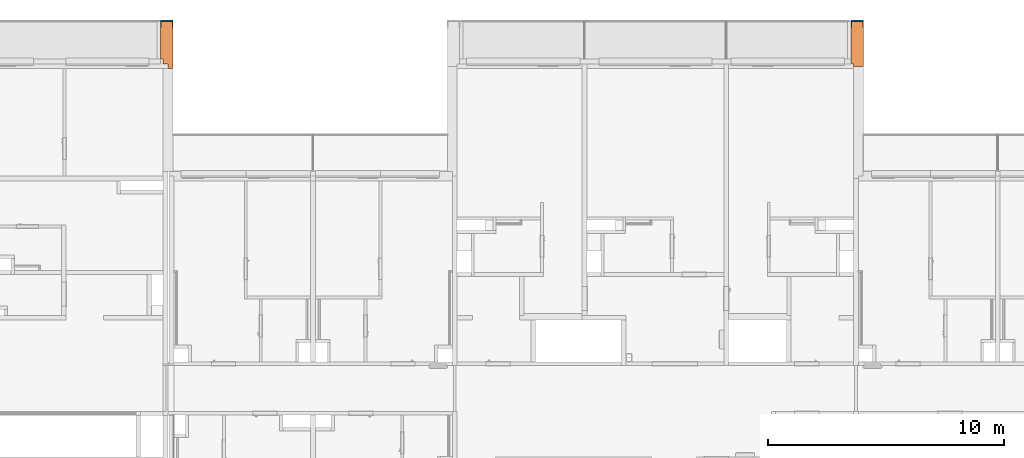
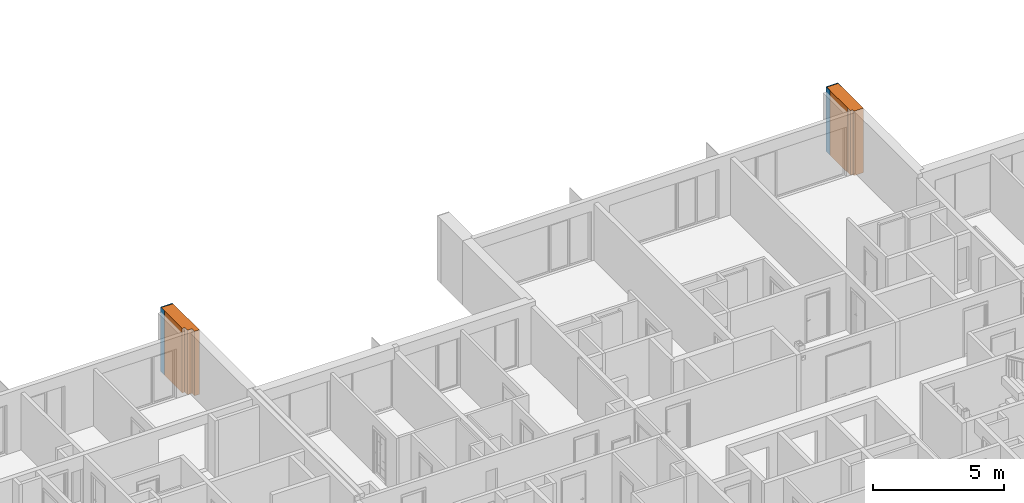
# One storey, part 50 of 66: 2 proxies, 2 walls, 2 openings.
"""IFC2X3 building model written with IfcOpenShell, lengths in millimetres."""

from ifc_helpers import new_model, entity, si_unit, converted_unit, derived_unit, money_unit, direction, frame, origin_with_axes, origin_2d_with_axis, place, context, subcontext, project, spatial, rectangle, extrude, faceted_brep, source, transform, mapped, material, material_list, type_object, element, fill, save


model = new_model("IFC2X3")

# Units and contexts
model_context = context("Model", 3, precision=0.01, world=origin_with_axes(), true_north=direction((0.34421633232, 0.938890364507)))
body_context = subcontext(model_context, "Body", "Model", "MODEL_VIEW")
ifc_project = project(units=[si_unit("LENGTHUNIT", "METRE", prefix="MILLI"), si_unit("AREAUNIT", "SQUARE_METRE"), si_unit("VOLUMEUNIT", "CUBIC_METRE"), converted_unit("PLANEANGLEUNIT", "DEGREE", entity("IfcPlaneAngleMeasure", 0.0174532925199), si_unit("PLANEANGLEUNIT", "RADIAN"), dimensions=[0, 0, 0, 0, 0, 0, 0]), si_unit("SOLIDANGLEUNIT", "STERADIAN"), money_unit("USD"), converted_unit("TIMEUNIT", "Year", entity("IfcTimeMeasure", 31556926.0), si_unit("TIMEUNIT", "SECOND"), dimensions=[0, 0, 1, 0, 0, 0, 0]), si_unit("MASSUNIT", "GRAM", prefix="KILO"), si_unit("THERMODYNAMICTEMPERATUREUNIT", "DEGREE_CELSIUS"), si_unit("LUMINOUSINTENSITYUNIT", "LUMEN"), si_unit("ENERGYUNIT", "JOULE", prefix="MEGA"), derived_unit("THERMALCONDUCTANCEUNIT", [(si_unit("POWERUNIT", "WATT"), 1), (si_unit("LENGTHUNIT", "METRE"), -1), (si_unit("THERMODYNAMICTEMPERATUREUNIT", "KELVIN"), -1)]), derived_unit("SPECIFICHEATCAPACITYUNIT", [(si_unit("ENERGYUNIT", "JOULE"), 1), (si_unit("MASSUNIT", "GRAM", prefix="KILO"), -1), (si_unit("THERMODYNAMICTEMPERATUREUNIT", "KELVIN"), -1)]), derived_unit("MASSDENSITYUNIT", [(si_unit("MASSUNIT", "GRAM", prefix="KILO"), 1), (si_unit("VOLUMEUNIT", "CUBIC_METRE"), -1)])], contexts=[model_context])

# Site, building, storey
site_placement = place(None, origin_with_axes())
site = spatial("IfcSite", under=ifc_project, at=site_placement, Name="USTRONIE MORSKIE", CompositionType="ELEMENT")
building_placement = place(site_placement, origin_with_axes())
building = spatial("IfcBuilding", under=site, at=building_placement, Name="Budynek", CompositionType="ELEMENT")
storey_placement = place(building_placement, frame((0.0, 0.0, 10000.0), z_axis=(0.0, 0.0, 1.0), x_axis=(1.0, 0.0, 0.0)))
storey = spatial("IfcBuildingStorey", under=building, at=storey_placement, Name="PIĘTRO 3", CompositionType="ELEMENT", Elevation=10000.0)

# Proxy, opening, wall
ifc_material_1 = material(Name="Tynk zewnętrzny")
ifc_material_2 = material(Name="Wełna ELEW")
ifc_material_3 = material(Name="Beton konstrukcyjny B25")
ifc_material_list = material_list([ifc_material_1, ifc_material_2, ifc_material_3, ifc_material_2, ifc_material_1])
building_element_proxy_type = type_object("IfcBuildingElementProxyType", Name="BALKON bok 01 520", PredefinedType="NOTDEFINED")
proxy_1_placement = place(storey_placement, frame((396317.920919, 749451.199036, -160.0), z_axis=(0.0, 0.0, 1.0), x_axis=(0.0, 1.0, 0.0)))
proxy_1 = element("IfcBuildingElementProxy", 1, at=proxy_1_placement, inside=storey, type_object=building_element_proxy_type, material=ifc_material_list, Name="Œciana-006", context=body_context, shape_type="Brep", body=[
    faceted_brep([(300.0, 210.0, 3000.0), (300.0, 200.0, 3000.0), (1949.99981809, 200.0, 3000.0), (1949.99981809, 210.0, 3000.0), (300.0, 200.0, 0.0), (300.0, 210.0, 0.0), (1949.99981809, 200.0, 0.0), (1949.99981809, 210.0, 0.0)], [[[0, 1, 2, 3]], [[4, 1, 0, 5]], [[1, 4, 6, 2]], [[2, 6, 7, 3]], [[5, 0, 3, 7]], [[4, 5, 7, 6]]]),
    faceted_brep([(100.0, 200.0, 3000.0), (100.0, 100.000005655, 3000.0), (1949.99981809, 100.0, 3000.0), (1949.99981809, 200.0, 3000.0), (100.0, 100.000005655, 0.0), (100.0, 200.0, 0.0), (1949.99981809, 100.0, 0.0), (1949.99981809, 200.0, 0.0)], [[[0, 1, 2, 3]], [[4, 1, 0, 5]], [[1, 4, 6, 2]], [[2, 6, 7, 3]], [[5, 0, 3, 7]], [[4, 5, 7, 6]]]),
    faceted_brep([(0.0, -100.0, 0.0), (0.0, 100.0, 0.0), (1949.99981809, 100.0, 0.0), (1949.99981809, -100.0, 0.0), (0.0, -100.0, 3000.0), (0.0, 100.0, 3000.0), (1949.99981809, 100.0, 3000.0), (1949.99981809, -100.0, 3000.0)], [[[0, 1, 2, 3]], [[4, 5, 1, 0]], [[1, 5, 6, 2]], [[7, 3, 2, 6]], [[4, 0, 3, 7]], [[5, 4, 7, 6]]]),
    faceted_brep([(0.0, -100.0, 0.0), (1949.99981809, -100.0, 0.0), (1949.99981809, -300.0, 0.0), (0.0, -300.0, 0.0), (0.0, -100.0, 3000.0), (1949.99981809, -100.0, 3000.0), (1949.99981809, -300.0, 3000.0), (0.0, -300.0, 3000.0)], [[[0, 1, 2, 3]], [[4, 5, 1, 0]], [[2, 1, 5, 6]], [[3, 2, 6, 7]], [[4, 0, 3, 7]], [[7, 6, 5, 4]]]),
    faceted_brep([(0.0, -300.0, 0.0), (1949.99981809, -300.0, 0.0), (1949.99981809, -310.0, 0.0), (0.0, -310.0, 0.0), (0.0, -300.0, 3000.0), (1949.99981809, -300.0, 3000.0), (1949.99981809, -310.0, 3000.0), (0.0, -310.0, 3000.0)], [[[0, 1, 2, 3]], [[4, 5, 1, 0]], [[2, 1, 5, 6]], [[3, 2, 6, 7]], [[4, 0, 3, 7]], [[7, 6, 5, 4]]]),
])
opening_1_placement = place(proxy_1_placement, frame((1949.99981809, 0.0, 0.0), z_axis=(0.0, 0.0, 1.0), x_axis=(1.0, 0.0, 0.0)))
opening_1 = element("IfcOpeningElement", 2, at=opening_1_placement, cuts=proxy_1, Name="ZS1", context=body_context, shape_type="SweptSolid", body=[
    extrude(rectangle(XDim=9.99999999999, YDim=50.0000000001, at=origin_2d_with_axis()), frame((-25.0000000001, 205.0, 0.0), z_axis=(0.0, 0.0, 1.0), x_axis=(0.0, -1.0, 0.0)), (0.0, 0.0, 1.0), 3000.0),
    extrude(rectangle(XDim=9.99999999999, YDim=250.0, at=origin_2d_with_axis()), frame((-175.0, 205.0, 0.0), z_axis=(0.0, 0.0, 1.0), x_axis=(0.0, -1.0, 0.0)), (0.0, 0.0, 1.0), 3000.0),
    extrude(rectangle(XDim=9.99999999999, YDim=50.0, at=origin_2d_with_axis()), frame((-25.0, -305.0, 0.0), z_axis=(0.0, 0.0, 1.0), x_axis=(0.0, -1.0, 0.0)), (0.0, 0.0, 1.0), 3000.0),
    extrude(rectangle(XDim=9.99999999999, YDim=250.0, at=origin_2d_with_axis()), frame((-175.0, -305.0, 0.0), z_axis=(0.0, 0.0, 1.0), x_axis=(0.0, -1.0, 0.0)), (0.0, 0.0, 1.0), 3000.0),
    extrude(rectangle(XDim=500.0, YDim=50.0000000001, at=origin_2d_with_axis()), frame((-25.0000000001, -50.0, 0.0), z_axis=(0.0, 0.0, 1.0), x_axis=(0.0, -1.0, 0.0)), (0.0, 0.0, 1.0), 3000.0),
])
wall_type = type_object("IfcWallType", Name="Zakończenie zamknięte 23", PredefinedType="NOTDEFINED")
shared_shape = source(origin_with_axes(), body_context, "Body", "Brep", [
    faceted_brep([(0.0, 0.0, 0.0), (0.0, -50.0, 0.0), (0.0, -50.0, 3000.0), (0.0, 0.0, 3000.0), (10.0, 0.0, 0.0), (10.0, -50.0, 0.0), (10.0, -50.0, 3000.0), (10.0, 0.0, 3000.0)], [[[0, 1, 2, 3]], [[4, 5, 1, 0]], [[5, 6, 2, 1]], [[6, 7, 3, 2]], [[7, 4, 0, 3]], [[4, 7, 6, 5]]]),
    faceted_brep([(0.0, -50.0, 0.0), (0.0, -300.0, 0.0), (0.0, -300.0, 3000.0), (0.0, -50.0, 3000.0), (10.0, -50.0, 0.0), (10.0, -300.0, 0.0), (10.0, -300.0, 3000.0), (10.0, -50.0, 3000.0)], [[[0, 1, 2, 3]], [[4, 5, 1, 0]], [[5, 6, 2, 1]], [[6, 7, 3, 2]], [[7, 4, 0, 3]], [[4, 7, 6, 5]]]),
    faceted_brep([(510.0, 0.0, 0.0), (510.0, -50.0, 0.0), (510.0, -50.0, 3000.0), (510.0, 0.0, 3000.0), (520.0, 0.0, 0.0), (520.0, -50.0, 0.0), (520.0, -50.0, 3000.0), (520.0, 0.0, 3000.0)], [[[0, 1, 2, 3]], [[4, 5, 1, 0]], [[5, 6, 2, 1]], [[6, 7, 3, 2]], [[7, 4, 0, 3]], [[4, 7, 6, 5]]]),
    faceted_brep([(510.0, -50.0, 0.0), (510.0, -300.0, 0.0), (510.0, -300.0, 3000.0), (510.0, -50.0, 3000.0), (520.0, -50.0, 0.0), (520.0, -300.0, 0.0), (520.0, -300.0, 3000.0), (520.0, -50.0, 3000.0)], [[[0, 1, 2, 3]], [[4, 5, 1, 0]], [[5, 6, 2, 1]], [[6, 7, 3, 2]], [[7, 4, 0, 3]], [[4, 7, 6, 5]]]),
    faceted_brep([(10.0, 0.0, 0.0), (10.0, -50.0, 0.0), (10.0, -50.0, 3000.0), (10.0, 0.0, 3000.0), (510.0, 0.0, 0.0), (510.0, -50.0, 0.0), (510.0, -50.0, 3000.0), (510.0, 0.0, 3000.0)], [[[0, 1, 2, 3]], [[4, 5, 1, 0]], [[5, 6, 2, 1]], [[6, 7, 3, 2]], [[7, 4, 0, 3]], [[4, 7, 6, 5]]]),
])
wall_1_placement = place(opening_1_placement, frame((-150.0, 0.0, 0.0), z_axis=(0.0, 0.0, 1.0), x_axis=(1.0, 0.0, 0.0)))
wall_1 = element("IfcWall", 3, at=wall_1_placement, inside=storey, type_object=wall_type, material=ifc_material_1, Name="ZS1", context=body_context, shape_type="MappedRepresentation", body=[
    mapped(shared_shape, transform((150.0, 210.0, 0.0), x_axis=(0.0, -1.0, 0.0), y_axis=(1.0, 0.0, 0.0), z_axis=(0.0, 0.0, 1.0))),
])
fill(opening_1, wall_1)

proxy_2_placement = place(storey_placement, frame((367067.920919, 749451.199036, -160.0), z_axis=(0.0, 0.0, 1.0), x_axis=(0.0, 1.0, 0.0)))
proxy_2 = element("IfcBuildingElementProxy", 4, at=proxy_2_placement, inside=storey, type_object=building_element_proxy_type, material=ifc_material_list, Name="Œciana-006", context=body_context, shape_type="Brep", body=[
    faceted_brep([(1899.84616151, 209.852530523, 1.89398381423e-05), (310.0, 209.867070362, -4.89925966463e-06), (310.0, 209.867070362, 9.99999623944), (1909.87684774, 209.852438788, 10.0000009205), (1909.87684774, 209.852438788, 0.0), (1909.87684909, 210.0, 0.0), (1949.99981808, 210.0, 0.0), (1949.99981808, 200.0, 0.0), (310.0, 200.0, 0.0), (310.0, 200.0, 3000.0), (310.0, 210.0, 3000.0), (310.0, 210.0, 9.99999639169), (1909.87684909, 210.0, 10.0000009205), (1949.99981808, 210.0, 3000.0), (1949.99981808, 200.0, 3000.0)], [[[0, 1, 2, 3, 4]], [[1, 0, 4, 5, 6, 7, 8]], [[2, 1, 8, 9, 10, 11]], [[3, 2, 11, 12]], [[5, 4, 3, 12]], [[11, 10, 13, 6, 5, 12]], [[7, 6, 13, 14]], [[8, 7, 14, 9]], [[9, 14, 13, 10]]]),
    faceted_brep([(1949.99981808, 200.0, 0.0), (1949.99981808, 100.0, 0.0), (300.0, 100.0, 0.0), (300.0, 200.0, 0.0), (1949.99981808, 200.0, 3000.0), (1949.99981808, 100.0, 3000.0), (300.0, 100.0, 3000.0), (300.0, 200.0, 3000.0)], [[[0, 1, 2, 3]], [[0, 4, 5, 1]], [[1, 5, 6, 2]], [[3, 2, 6, 7]], [[4, 0, 3, 7]], [[5, 4, 7, 6]]]),
    faceted_brep([(1949.99981808, 100.0, 0.0), (1949.99981808, -100.0, 0.0), (100.0, -100.0, 0.0), (100.0, 100.0, 0.0), (1949.99981808, 100.0, 3000.0), (1949.99981808, -100.0, 3000.0), (100.0, -100.0, 3000.0), (100.0, 100.0, 3000.0)], [[[0, 1, 2, 3]], [[0, 4, 5, 1]], [[1, 5, 6, 2]], [[3, 2, 6, 7]], [[4, 0, 3, 7]], [[5, 4, 7, 6]]]),
    faceted_brep([(-100.0, -100.0, 0.0), (1949.99981808, -100.0, 0.0), (1949.99981808, -300.0, 0.0), (-100.0, -300.0, 0.0), (-100.0, -100.0, 3000.0), (1949.99981808, -100.0, 3000.0), (1949.99981808, -300.0, 3000.0), (-100.0, -300.0, 3000.0)], [[[0, 1, 2, 3]], [[4, 5, 1, 0]], [[2, 1, 5, 6]], [[3, 2, 6, 7]], [[4, 0, 3, 7]], [[7, 6, 5, 4]]]),
    faceted_brep([(-100.0, -300.0, 0.0), (1949.99981808, -300.0, 0.0), (1949.99981808, -310.0, 0.0), (-100.0, -310.0, 0.0), (-100.0, -300.0, 3000.0), (1949.99981808, -300.0, 3000.0), (1949.99981808, -310.0, 3000.0), (-100.0, -310.0, 3000.0)], [[[0, 1, 2, 3]], [[4, 5, 1, 0]], [[2, 1, 5, 6]], [[3, 2, 6, 7]], [[4, 0, 3, 7]], [[7, 6, 5, 4]]]),
])
opening_2_placement = place(proxy_2_placement, frame((1949.99981808, 0.0, 0.0), z_axis=(0.0, 0.0, 1.0), x_axis=(1.0, 0.0, 0.0)))
opening_2 = element("IfcOpeningElement", 5, at=opening_2_placement, cuts=proxy_2, Name="ZS1", context=body_context, shape_type="SweptSolid", body=[
    extrude(rectangle(XDim=9.99999999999, YDim=50.0000000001, at=origin_2d_with_axis()), frame((-25.0000000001, 205.0, 0.0), z_axis=(0.0, 0.0, 1.0), x_axis=(0.0, -1.0, 0.0)), (0.0, 0.0, 1.0), 3000.0),
    extrude(rectangle(XDim=9.99999999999, YDim=250.0, at=origin_2d_with_axis()), frame((-175.0, 205.0, 0.0), z_axis=(0.0, 0.0, 1.0), x_axis=(0.0, -1.0, 0.0)), (0.0, 0.0, 1.0), 3000.0),
    extrude(rectangle(XDim=9.99999999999, YDim=50.0, at=origin_2d_with_axis()), frame((-25.0, -305.0, 0.0), z_axis=(0.0, 0.0, 1.0), x_axis=(0.0, -1.0, 0.0)), (0.0, 0.0, 1.0), 3000.0),
    extrude(rectangle(XDim=9.99999999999, YDim=250.0, at=origin_2d_with_axis()), frame((-175.0, -305.0, 0.0), z_axis=(0.0, 0.0, 1.0), x_axis=(0.0, -1.0, 0.0)), (0.0, 0.0, 1.0), 3000.0),
    extrude(rectangle(XDim=500.0, YDim=50.0000000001, at=origin_2d_with_axis()), frame((-25.0000000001, -50.0, 0.0), z_axis=(0.0, 0.0, 1.0), x_axis=(0.0, -1.0, 0.0)), (0.0, 0.0, 1.0), 3000.0),
])
wall_2_placement = place(opening_2_placement, frame((-150.0, 0.0, 0.0), z_axis=(0.0, 0.0, 1.0), x_axis=(1.0, 0.0, 0.0)))
wall_2 = element("IfcWall", 6, at=wall_2_placement, inside=storey, type_object=wall_type, material=ifc_material_1, Name="ZS1", context=body_context, shape_type="MappedRepresentation", body=[
    mapped(shared_shape, transform((150.0, 210.0, 0.0), x_axis=(0.0, -1.0, 0.0), y_axis=(1.0, 0.0, 0.0), z_axis=(0.0, 0.0, 1.0))),
])
fill(opening_2, wall_2)

save(model, "model.ifc")
